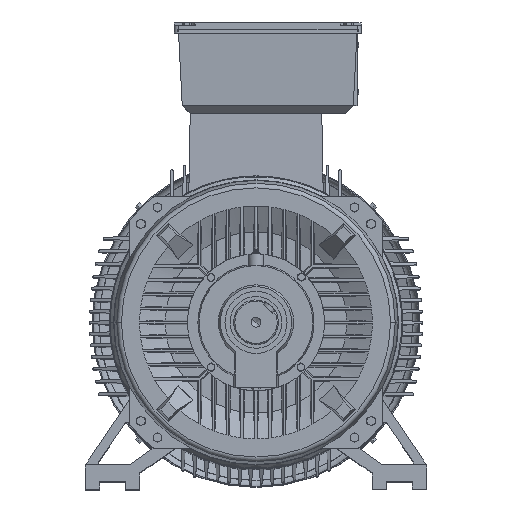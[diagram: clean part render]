
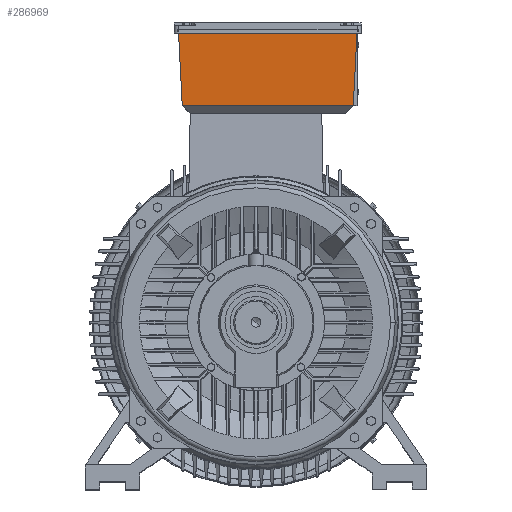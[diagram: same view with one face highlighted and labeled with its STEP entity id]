
A CAD part, top view. The second image highlights one B-rep face of the part: STEP entity #286969.
In plain terms, the highlighted planar face has unit normal (0, -0.051, 0.999) as drawn and (-0.999, 0, -0.051) by its records, which use the part's own axes.
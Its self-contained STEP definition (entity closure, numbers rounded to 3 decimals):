
#48928 = CARTESIAN_POINT ( 'NONE',  ( -157., 182., -158. ) ) ;
#48972 = CARTESIAN_POINT ( 'NONE',  ( -157., -182., -158. ) ) ;
#48986 = CARTESIAN_POINT ( 'NONE',  ( -165., -190., 0. ) ) ;
#48988 = CARTESIAN_POINT ( 'NONE',  ( -165., 190., 0. ) ) ;
#61246 = EDGE_LOOP ( 'NONE', ( #226356, #226357, #226359, #226361 ) ) ;
#71911 = EDGE_CURVE ( 'NONE', #178232, #178286, #239583, .T. ) ;
#71940 = EDGE_CURVE ( 'NONE', #178300, #178310, #239721, .T. ) ;
#71955 = EDGE_CURVE ( 'NONE', #178286, #178310, #239804, .T. ) ;
#71959 = EDGE_CURVE ( 'NONE', #178232, #178300, #239817, .T. ) ;
#85919 = AXIS2_PLACEMENT_3D ( 'NONE', #236166, #236185, #236189 ) ;
#128824 = FACE_OUTER_BOUND ( 'NONE', #61246, .T. ) ;
#178232 = VERTEX_POINT ( 'NONE', #48928 ) ;
#178286 = VERTEX_POINT ( 'NONE', #48972 ) ;
#178300 = VERTEX_POINT ( 'NONE', #48988 ) ;
#178310 = VERTEX_POINT ( 'NONE', #48986 ) ;
#226356 = ORIENTED_EDGE ( 'NONE', *, *, #71955, .T. ) ;
#226357 = ORIENTED_EDGE ( 'NONE', *, *, #71940, .F. ) ;
#226359 = ORIENTED_EDGE ( 'NONE', *, *, #71959, .F. ) ;
#226361 = ORIENTED_EDGE ( 'NONE', *, *, #71911, .T. ) ;
#236161 = PLANE ( 'NONE',  #85919 ) ;
#236166 = CARTESIAN_POINT ( 'NONE',  ( -164.578, 0., -8.333 ) ) ;
#236185 = DIRECTION ( 'NONE',  ( 0.999, 0., 0.051 ) ) ;
#236189 = DIRECTION ( 'NONE',  ( 0.051, 0., -0.999 ) ) ;
#239583 = LINE ( 'NONE', #262870, #239613 ) ;
#239613 = VECTOR ( 'NONE', #262890, 1000. ) ;
#239721 = LINE ( 'NONE', #263023, #239744 ) ;
#239744 = VECTOR ( 'NONE', #263015, 1000. ) ;
#239804 = LINE ( 'NONE', #263057, #239833 ) ;
#239817 = LINE ( 'NONE', #263077, #239847 ) ;
#239833 = VECTOR ( 'NONE', #263071, 1000. ) ;
#239847 = VECTOR ( 'NONE', #263068, 1000. ) ;
#262870 = CARTESIAN_POINT ( 'NONE',  ( -157., 182., -158. ) ) ;
#262890 = DIRECTION ( 'NONE',  ( 0., -1., 0. ) ) ;
#263015 = DIRECTION ( 'NONE',  ( 0., -1., 0. ) ) ;
#263023 = CARTESIAN_POINT ( 'NONE',  ( -165., 190., 0. ) ) ;
#263057 = CARTESIAN_POINT ( 'NONE',  ( -157., -182., -158. ) ) ;
#263068 = DIRECTION ( 'NONE',  ( -0.051, 0.051, 0.997 ) ) ;
#263071 = DIRECTION ( 'NONE',  ( -0.051, -0.051, 0.997 ) ) ;
#263077 = CARTESIAN_POINT ( 'NONE',  ( -157., 182., -158. ) ) ;
#286969 = ADVANCED_FACE ( 'NONE', ( #128824 ), #236161, .F. ) ;
